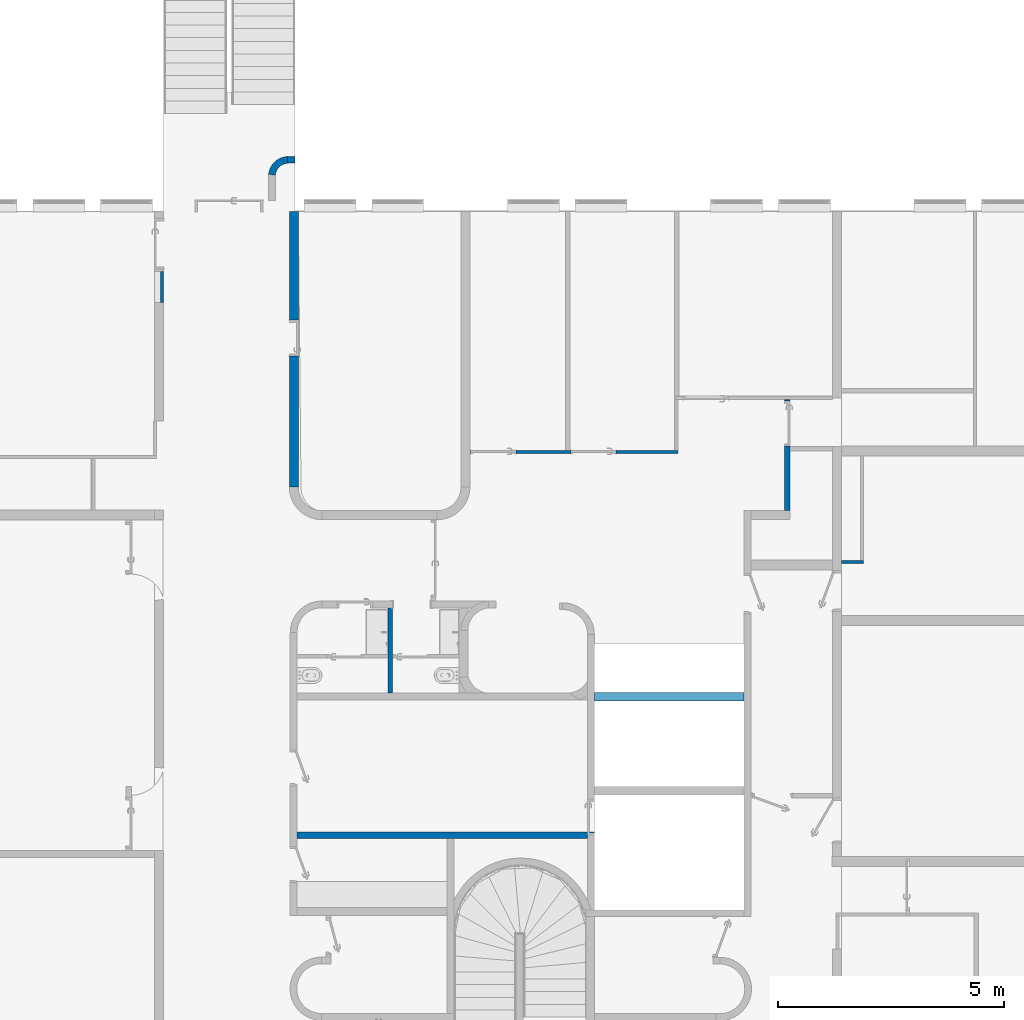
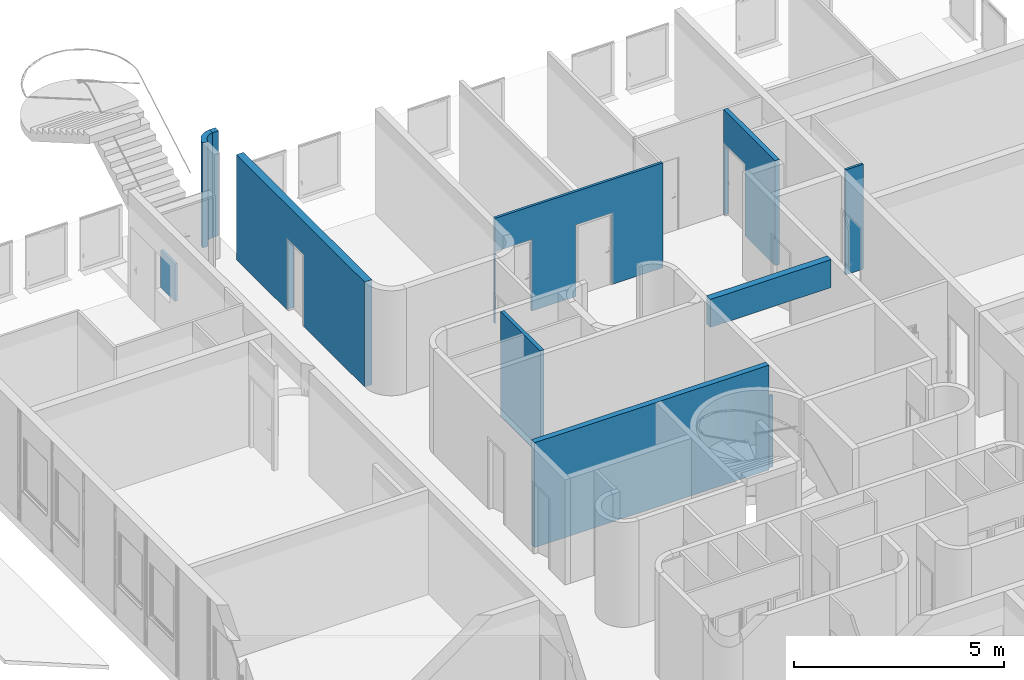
# One storey, part 2 of 4: 10 walls, 4 openings.
"""IFC2X3 building model written with IfcOpenShell, lengths in metres."""

import ifcopenshell
import ifcopenshell.guid

model = None  # the IFC model being written
_history = None  # IfcOwnerHistory: only IFC2X3 demands one
_inside = {}  # id of a spatial element -> (the spatial element, [elements in it])
_under = {}  # id of a project, library or spatial element -> (it, [spatial elements below it])
_declared = {}  # id of a project -> (the project, [libraries it declares])
_typed = {}  # id of a type object -> (the type object, [elements of that type])
_made_of = {}  # id of a material, layer set ... -> (it, [elements and type objects made of it])


def new_model(schema):
    """Start an empty IFC model of exactly this schema.

    Asked for "IFC4X3", IfcOpenShell would pick the latest addendum, in which some entities
    have other attributes; the version numbers below select the first issue.
    IFC2X3 requires an IfcOwnerHistory on every rooted entity: one is made here for all.
    """
    global model, _history
    if schema == "IFC4X3":
        model = ifcopenshell.file(schema_version=(4, 3, 0, 0))
    else:
        model = ifcopenshell.file(schema=schema)
    _inside.clear()
    _under.clear()
    _declared.clear()
    _typed.clear()
    _made_of.clear()
    _history = None
    if model.schema == "IFC2X3":
        org = make("IfcOrganization", Name="unknown")
        user = make(
            "IfcPersonAndOrganization",
            ThePerson=make("IfcPerson", FamilyName="unknown"),
            TheOrganization=org,
        )
        app = make(
            "IfcApplication",
            ApplicationDeveloper=org,
            Version="unknown",
            ApplicationFullName="unknown",
            ApplicationIdentifier="unknown",
        )
        _history = make(
            "IfcOwnerHistory",
            OwningUser=user,
            OwningApplication=app,
            ChangeAction="ADDED",
            CreationDate=0,
        )
    return model


def make(cls, **values):
    """One entity of the class cls with the attributes given. An attribute that is None is left unset."""
    return model.create_entity(
        cls, **{name: value for name, value in values.items() if value is not None}
    )


def entity(cls, *values):
    """Any entity or typed value of the class cls, its attributes in the order of the schema. None: left unset."""
    e = model.create_entity(cls)
    for i, value in enumerate(values):
        if value is not None:
            e[i] = value
    return e


def rooted(cls, **values):
    """An entity with a GlobalId (a new one), such as an element, a storey or a relation."""
    return make(cls, GlobalId=ifcopenshell.guid.new(), OwnerHistory=_history, **values)


def si_unit(unit_type, name, prefix=None):
    """IfcSIUnit, for example si_unit("LENGTHUNIT", "METRE", prefix="MILLI")."""
    return make("IfcSIUnit", UnitType=unit_type, Prefix=prefix, Name=name)


def converted_unit(unit_type, name, factor, base, dimensions=None, offset=None):
    """IfcConversionBasedUnit, such as the inch: factor (a typed value) times the base unit."""
    return make(
        "IfcConversionBasedUnit"
        if offset is None
        else "IfcConversionBasedUnitWithOffset",
        ConversionOffset=offset,
        Dimensions=None
        if dimensions is None
        else entity("IfcDimensionalExponents", *dimensions),
        UnitType=unit_type,
        Name=name,
        ConversionFactor=make(
            "IfcMeasureWithUnit", ValueComponent=factor, UnitComponent=base
        ),
    )


def derived_unit(unit_type, elements):
    """IfcDerivedUnit: a product of units, each with its exponent."""
    return make(
        "IfcDerivedUnit",
        Elements=[
            make("IfcDerivedUnitElement", Unit=unit, Exponent=power)
            for unit, power in elements
        ],
        UnitType=unit_type,
    )


def assignment(units):
    """IfcUnitAssignment: the units of a project."""
    return None if units is None else make("IfcUnitAssignment", Units=units)


def point(xyz):
    """IfcCartesianPoint."""
    return None if xyz is None else make("IfcCartesianPoint", Coordinates=xyz)


def direction(xyz):
    """IfcDirection."""
    return None if xyz is None else make("IfcDirection", DirectionRatios=xyz)


def frame(location, z_axis=None, x_axis=None):
    """IfcAxis2Placement3D, a coordinate frame: its origin and axes. An axis left out is left unset."""
    return make(
        "IfcAxis2Placement3D",
        Location=point(location),
        Axis=direction(z_axis),
        RefDirection=direction(x_axis),
    )


def frame_2d(location, x_axis=None):
    """IfcAxis2Placement2D, a coordinate frame in the plane: its origin and x axis."""
    return make(
        "IfcAxis2Placement2D", Location=point(location), RefDirection=direction(x_axis)
    )


def origin():
    """The frame at (0, 0, 0) with its axes left unset."""
    return frame((0.0, 0.0, 0.0))


def place(relative_to, where):
    """IfcLocalPlacement: puts the frame where relative to a parent placement (None: the world)."""
    return make(
        "IfcLocalPlacement", PlacementRelTo=relative_to, RelativePlacement=where
    )


def context(
    kind, dimensions, precision=None, world=None, true_north=None, identifier=None
):
    """IfcGeometricRepresentationContext, for example the 3D "Model" context."""
    return make(
        "IfcGeometricRepresentationContext",
        ContextIdentifier=identifier,
        ContextType=kind,
        CoordinateSpaceDimension=dimensions,
        Precision=precision,
        WorldCoordinateSystem=world,
        TrueNorth=true_north,
    )


def subcontext(parent, identifier, kind, view, scale=None):
    """IfcGeometricRepresentationSubContext, for example "Body" below "Model"."""
    return make(
        "IfcGeometricRepresentationSubContext",
        ContextIdentifier=identifier,
        ContextType=kind,
        ParentContext=parent,
        TargetScale=scale,
        TargetView=view,
    )


def project(units=None, contexts=None):
    """IfcProject with its units and contexts."""
    return rooted(
        "IfcProject",
        Name="project",
        RepresentationContexts=contexts,
        UnitsInContext=assignment(units),
    )


def spatial(cls, under=None, at=None, **own):
    """A site, building, storey or space (cls), placed at a placement, below another one or the project."""
    s = rooted(cls, ObjectPlacement=at, **own)
    if under is not None:
        _under.setdefault(under.id(), (under, []))[1].append(s)
    return s


def polyline(points):
    """IfcPolyline through the points."""
    return make("IfcPolyline", Points=[point(p) for p in points])


def circle_curve(where, radius):
    """IfcCircle in the frame where."""
    return make("IfcCircle", Position=where, Radius=radius)


def parameter(value):
    """IfcParameterValue: where a trimmed curve begins or ends, as a parameter of its basis curve."""
    return model.create_entity("IfcParameterValue", value)


def trimmed(basis, trim1, trim2, sense, master):
    """IfcTrimmedCurve: the piece of a basis curve between two trims."""
    return make(
        "IfcTrimmedCurve",
        BasisCurve=basis,
        Trim1=trim1,
        Trim2=trim2,
        SenseAgreement=sense,
        MasterRepresentation=master,
    )


def segment(curve, same_sense, transition):
    """IfcCompositeCurveSegment."""
    return make(
        "IfcCompositeCurveSegment",
        Transition=transition,
        SameSense=same_sense,
        ParentCurve=curve,
    )


def composite_curve(segments, self_intersect=None):
    """IfcCompositeCurve: segments joined end to end."""
    return make("IfcCompositeCurve", Segments=segments, SelfIntersect=self_intersect)


def profile(cls, at=None, kind="AREA", **sizes):
    """A parametric profile (cls). Its sizes go by their IFC names, for example OverallWidth=200.0."""
    return make(cls, ProfileType=kind, Position=at, **sizes)


def rectangle(**sizes):
    """IfcRectangleProfileDef."""
    return profile("IfcRectangleProfileDef", **sizes)


def outline(outer, holes=None, kind="AREA"):
    """IfcArbitraryClosedProfileDef: a profile drawn as a closed curve; with holes, ...WithVoids."""
    if holes is None:
        return make("IfcArbitraryClosedProfileDef", ProfileType=kind, OuterCurve=outer)
    return make(
        "IfcArbitraryProfileDefWithVoids",
        ProfileType=kind,
        OuterCurve=outer,
        InnerCurves=holes,
    )


def extrude(swept, where, along, depth):
    """IfcExtrudedAreaSolid: the profile swept, set in the frame where, extruded along a direction by depth."""
    return make(
        "IfcExtrudedAreaSolid",
        SweptArea=swept,
        Position=where,
        ExtrudedDirection=direction(along),
        Depth=depth,
    )


def clip(a, b, op="DIFFERENCE"):
    """IfcBooleanClippingResult: the solid a cut by the half space b."""
    return make(
        "IfcBooleanClippingResult", Operator=op, FirstOperand=a, SecondOperand=b
    )


def halfspace(plane, agree):
    """IfcHalfSpaceSolid: all space on one side of the plane z = 0 of the frame plane."""
    return make(
        "IfcHalfSpaceSolid",
        BaseSurface=make("IfcPlane", Position=plane),
        AgreementFlag=agree,
    )


def bounded_halfspace(plane, agree, where, boundary):
    """IfcPolygonalBoundedHalfSpace: a half space limited to a polygon's prism."""
    return make(
        "IfcPolygonalBoundedHalfSpace",
        BaseSurface=make("IfcPlane", Position=plane),
        AgreementFlag=agree,
        Position=where,
        PolygonalBoundary=boundary,
    )


def faces_of(points, faces, orient=None, outer=None):
    """IfcFace entities. A face is a list of loops; a loop is a list of indices into points, from 0.

    orient and outer hold one flag for each loop. By default every Orientation is true, the
    first loop of a face is its IfcFaceOuterBound and the others are IfcFaceBound.
    """
    made = []
    for i, loops in enumerate(faces):
        bounds = []
        for j, loop in enumerate(loops):
            is_outer = j == 0 if outer is None else outer[i][j]
            bounds.append(
                make(
                    "IfcFaceOuterBound" if is_outer else "IfcFaceBound",
                    Bound=make("IfcPolyLoop", Polygon=[points[k] for k in loop]),
                    Orientation=True if orient is None else orient[i][j],
                )
            )
        made.append(make("IfcFace", Bounds=bounds))
    return made


def faceted_brep(points, faces, orient=None, outer=None, voids=None):
    """IfcFacetedBrep: a solid bounded by flat faces; with voids (closed shells), ...WithVoids."""
    shared = [point(p) for p in points]
    hull = make("IfcClosedShell", CfsFaces=faces_of(shared, faces, orient, outer))
    if voids is None:
        return make("IfcFacetedBrep", Outer=hull)
    return make(
        "IfcFacetedBrepWithVoids",
        Outer=hull,
        Voids=[
            make(cls, CfsFaces=faces_of(shared, fs, o, b)) for cls, fs, o, b in voids
        ],
    )


def shape(context_of_items, identifier, shape_type, items):
    """IfcShapeRepresentation: the items that make up one representation, for example the "Body"."""
    return make(
        "IfcShapeRepresentation",
        ContextOfItems=context_of_items,
        RepresentationIdentifier=identifier,
        RepresentationType=shape_type,
        Items=items,
    )


def material(Name=None, Category=None):
    """IfcMaterial."""
    return make("IfcMaterial", Name=Name, Category=Category)


def layer(
    of_material, thickness, ventilated=None, Name=None, Category=None, Priority=None
):
    """IfcMaterialLayer: one layer of a wall or slab, of a material (None: an air gap)."""
    return make(
        "IfcMaterialLayer",
        Material=of_material,
        LayerThickness=thickness,
        IsVentilated=ventilated,
        Name=Name,
        Category=Category,
        Priority=Priority,
    )


def layer_set(layers, Name=None):
    """IfcMaterialLayerSet."""
    return make("IfcMaterialLayerSet", MaterialLayers=layers, LayerSetName=Name)


def layer_usage(for_layer_set, set_direction, sense, offset, extent=None):
    """IfcMaterialLayerSetUsage: how a layer set lies in its element."""
    return make(
        "IfcMaterialLayerSetUsage",
        ForLayerSet=for_layer_set,
        LayerSetDirection=set_direction,
        DirectionSense=sense,
        OffsetFromReferenceLine=offset,
        ReferenceExtent=extent,
    )


def made_of(thing, what):
    """Note that an element or type object is made of a material, layer set ...; save() writes the relation."""
    if what is not None:
        _made_of.setdefault(what.id(), (what, []))[1].append(thing)
    return thing


def type_object(cls, material=None, **own):
    """A type object (cls), such as IfcWallType, which elements share."""
    return made_of(rooted(cls, **own), material)


def element(
    cls,
    number,
    at=None,
    inside=None,
    cuts=None,
    type_object=None,
    material=None,
    context=None,
    identifier="Body",
    shape_type=None,
    held_by="IfcProductDefinitionShape",
    body=None,
    shapes=None,
    **own,
):
    """One element of the class cls, such as IfcWall. Its Tag is "e" and its number.

    at: its placement. inside: the storey or other place that contains it. cuts: it is an
    opening in that element (IfcRelVoidsElement). A single representation is given by context,
    identifier, shape_type and body (its items); several are given by shapes. held_by: the class
    of the entity that holds the representations. save() writes the other relations.
    """
    e = rooted(cls, Tag="e%d" % number, ObjectPlacement=at, **own)
    if body is not None:
        shapes = [shape(context, identifier, shape_type, body)]
    if shapes is not None:
        e.Representation = make(held_by, Representations=shapes)
    if inside is not None:
        _inside.setdefault(inside.id(), (inside, []))[1].append(e)
    if cuts is not None:
        rooted(
            "IfcRelVoidsElement", RelatingBuildingElement=cuts, RelatedOpeningElement=e
        )
    if type_object is not None:
        _typed.setdefault(type_object.id(), (type_object, []))[1].append(e)
    return made_of(e, material)


def aggregate(whole, parts):
    """IfcRelAggregates: a whole, such as a stair, and the parts it consists of."""
    return rooted("IfcRelAggregates", RelatingObject=whole, RelatedObjects=parts)


def save(model, path):
    """Write the relations noted so far, then the file.

    IfcRelAggregates (storeys below a building ...), IfcRelContainedInSpatialStructure (elements
    in a storey), IfcRelDefinesByType, IfcRelAssociatesMaterial and IfcRelDeclares: one each for
    every whole, place, type object, material and project.
    """
    for whole, parts in _under.values():
        aggregate(whole, parts)
    for where, things in _inside.values():
        rooted(
            "IfcRelContainedInSpatialStructure",
            RelatedElements=things,
            RelatingStructure=where,
        )
    for kind, things in _typed.values():
        rooted("IfcRelDefinesByType", RelatedObjects=things, RelatingType=kind)
    for what, things in _made_of.values():
        rooted("IfcRelAssociatesMaterial", RelatedObjects=things, RelatingMaterial=what)
    for by, libraries in _declared.values():
        rooted("IfcRelDeclares", RelatingContext=by, RelatedDefinitions=libraries)
    model.write(path)


model = new_model("IFC2X3")

# Units and contexts
model_context = context("Model", 3, precision=1e-05, world=origin(), true_north=direction((6.12303176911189e-17, 1.0)))
body_context = subcontext(model_context, "Body", "Model", "MODEL_VIEW")
ifc_project = project(units=[si_unit("LENGTHUNIT", "METRE"), si_unit("AREAUNIT", "SQUARE_METRE"), si_unit("VOLUMEUNIT", "CUBIC_METRE"), converted_unit("PLANEANGLEUNIT", "DEGREE", entity("IfcRatioMeasure", 0.0174532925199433), si_unit("PLANEANGLEUNIT", "RADIAN"), dimensions=[0, 0, 0, 0, 0, 0, 0]), si_unit("MASSUNIT", "GRAM", prefix="KILO"), derived_unit("MASSDENSITYUNIT", [(si_unit("MASSUNIT", "GRAM", prefix="KILO"), 1), (si_unit("LENGTHUNIT", "METRE"), -3)]), derived_unit("MOMENTOFINERTIAUNIT", [(si_unit("LENGTHUNIT", "METRE"), 4)]), si_unit("TIMEUNIT", "SECOND"), si_unit("FREQUENCYUNIT", "HERTZ"), si_unit("THERMODYNAMICTEMPERATUREUNIT", "DEGREE_CELSIUS"), derived_unit("THERMALTRANSMITTANCEUNIT", [(si_unit("MASSUNIT", "GRAM", prefix="KILO"), 1), (si_unit("THERMODYNAMICTEMPERATUREUNIT", "KELVIN"), -1), (si_unit("TIMEUNIT", "SECOND"), -3)]), derived_unit("VOLUMETRICFLOWRATEUNIT", [(si_unit("LENGTHUNIT", "METRE"), 3), (si_unit("TIMEUNIT", "SECOND"), -1)]), si_unit("ELECTRICCURRENTUNIT", "AMPERE"), si_unit("ELECTRICVOLTAGEUNIT", "VOLT"), si_unit("POWERUNIT", "WATT"), si_unit("FORCEUNIT", "NEWTON", prefix="KILO"), si_unit("ILLUMINANCEUNIT", "LUX"), si_unit("LUMINOUSFLUXUNIT", "LUMEN"), si_unit("LUMINOUSINTENSITYUNIT", "CANDELA"), derived_unit("USERDEFINED", [(si_unit("MASSUNIT", "GRAM", prefix="KILO"), -1), (si_unit("LENGTHUNIT", "METRE"), -2), (si_unit("TIMEUNIT", "SECOND"), 3), (si_unit("LUMINOUSFLUXUNIT", "LUMEN"), 1)]), derived_unit("LINEARVELOCITYUNIT", [(si_unit("LENGTHUNIT", "METRE"), 1), (si_unit("TIMEUNIT", "SECOND"), -1)]), si_unit("PRESSUREUNIT", "PASCAL"), derived_unit("USERDEFINED", [(si_unit("LENGTHUNIT", "METRE"), -2), (si_unit("MASSUNIT", "GRAM", prefix="KILO"), 1), (si_unit("TIMEUNIT", "SECOND"), -2)]), derived_unit("LINEARFORCEUNIT", [(si_unit("MASSUNIT", "GRAM", prefix="KILO"), 1), (si_unit("LENGTHUNIT", "METRE"), 1), (si_unit("TIMEUNIT", "SECOND"), -2), (si_unit("LENGTHUNIT", "METRE"), -1)]), derived_unit("PLANARFORCEUNIT", [(si_unit("MASSUNIT", "GRAM", prefix="KILO"), 1), (si_unit("LENGTHUNIT", "METRE"), 1), (si_unit("TIMEUNIT", "SECOND"), -2), (si_unit("LENGTHUNIT", "METRE"), -2)])], contexts=[model_context])

# Site, building, storey
site_placement = place(None, origin())
site = spatial("IfcSite", under=ifc_project, at=site_placement, Name="Default", CompositionType="ELEMENT")
building_placement = place(site_placement, origin())
building = spatial("IfcBuilding", under=site, at=building_placement, CompositionType="ELEMENT")
storey_placement = place(building_placement, frame((0.0, 0.0, 4.12187276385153)))
storey = spatial("IfcBuildingStorey", under=building, at=storey_placement, Name="Niveau 1", CompositionType="ELEMENT", Elevation=4.12187276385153)

# Wall, openings
ifc_material_1 = material(Name="Verre")
ifc_layer_1 = layer(ifc_material_1, 0.07)
ifc_layer_set_1 = layer_set([ifc_layer_1], Name="Mur de base:Mur en verre 70")
ifc_layer_usage_1 = layer_usage(ifc_layer_set_1, "AXIS2", "NEGATIVE", 0.035)
wall_type_1 = type_object("IfcWallType", Name="Mur de base:Mur en verre 70", PredefinedType="STANDARD", material=ifc_layer_set_1)
wall_1_placement = place(storey_placement, frame((-11.966853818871, 5.24817702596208, 0.0)))
wall_1 = element("IfcWallStandardCase", 1, at=wall_1_placement, inside=storey, type_object=wall_type_1, material=ifc_layer_usage_1, Name="Mur de base:Mur en verre 70", ObjectType="Mur de base:Mur en verre 70", context=body_context, shape_type="Clipping", body=[
    clip(extrude(rectangle(XDim=4.60827409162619, YDim=0.0699999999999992, at=frame_2d((2.30413704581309, 0.0), x_axis=(-1.0, 0.0))), origin(), (0.0, 0.0, 1.0), 3.04543551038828), bounded_halfspace(frame((0.0, -0.0350000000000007, 3.04543551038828), z_axis=(0.0, 0.0, -1.0), x_axis=(0.0, 1.0, 0.0)), True, frame((0.0, -0.0350000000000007, 3.04543551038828)), polyline([(0.0, 0.0), (4.60827409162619, 0.0), (4.60827409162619, 0.0700000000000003), (4.53827409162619, 0.0700000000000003), (0.0, 0.0700000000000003), (0.0, 0.0)]))),
])
opening_1_placement = place(wall_1_placement, frame((0.0149999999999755, -0.035, 0.0)))
element("IfcOpeningElement", 2, at=opening_1_placement, cuts=wall_1, Name="@_Int. Simple:@_PP (0.93m x 2.04m):1", ObjectType="Opening", context=body_context, shape_type="SweptSolid", body=[
    extrude(rectangle(XDim=2.075, YDim=1.0, at=frame_2d((1.0375, 0.5), x_axis=(1.0, 0.0))), frame((0.0, 0.0, 0.0), z_axis=(0.0, 1.0, 0.0), x_axis=(0.0, 0.0, 1.0)), (0.0, 0.0, 1.0), 0.07),
])
opening_2_placement = place(wall_1_placement, frame((2.23286464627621, -0.035, 0.0)))
element("IfcOpeningElement", 3, at=opening_2_placement, cuts=wall_1, Name="@_Int. Simple:@_PP (0.93m x 2.04m):1", ObjectType="Opening", context=body_context, shape_type="SweptSolid", body=[
    extrude(rectangle(XDim=2.075, YDim=0.999999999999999, at=frame_2d((1.0375, 0.5), x_axis=(1.0, 0.0))), frame((0.0, 0.0, 0.0), z_axis=(0.0, 1.0, 0.0), x_axis=(0.0, 0.0, 1.0)), (0.0, 0.0, 1.0), 0.07),
])

# Wall
ifc_layer_usage_2 = layer_usage(ifc_layer_set_1, "AXIS2", "NEGATIVE", 0.035)
wall_2_placement = place(storey_placement, frame((-18.7789891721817, 8.56088485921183, 1.0), z_axis=(0.0, 0.0, 1.0), x_axis=(0.0, 1.0, 0.0)))
element("IfcWallStandardCase", 4, at=wall_2_placement, inside=storey, type_object=wall_type_1, material=ifc_layer_usage_2, Name="Mur de base:Mur en verre 70", ObjectType="Mur de base:Mur en verre 70", context=body_context, shape_type="SweptSolid", body=[
    extrude(rectangle(XDim=0.68, YDim=0.0700000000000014, at=frame_2d((0.34, -3.29597460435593e-16), x_axis=(-1.0, 0.0))), origin(), (0.0, 0.0, 1.0), 1.085),
])

# Wall, opening
ifc_material_2 = material(Name="Mur par défaut")
ifc_layer_2 = layer(ifc_material_2, 0.2)
ifc_layer_set_2 = layer_set([ifc_layer_2], Name="Mur de base:@_Générique - Int. 200 mm")
ifc_layer_usage_3 = layer_usage(ifc_layer_set_2, "AXIS2", "NEGATIVE", 0.1)
wall_type_2 = type_object("IfcWallType", Name="Mur de base:@_Générique - Int. 200 mm", PredefinedType="STANDARD", material=ifc_layer_set_2)
wall_3_placement = place(storey_placement, frame((-15.8652391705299, 10.5708848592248, 0.0), z_axis=(0.0, 0.0, 1.0), x_axis=(0.0, -1.0, 0.0)))
wall_3 = element("IfcWallStandardCase", 5, at=wall_3_placement, inside=storey, type_object=wall_type_2, material=ifc_layer_usage_3, Name="Mur de base:@_Générique - Int. 200 mm", ObjectType="Mur de base:@_Générique - Int. 200 mm", context=body_context, shape_type="Clipping", body=[
    clip(extrude(rectangle(XDim=6.09502030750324, YDim=0.200000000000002, at=frame_2d((3.04751015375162, 6.93889390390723e-17), x_axis=(-1.0, 0.0))), origin(), (0.0, 0.0, 1.0), 3.04543551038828), bounded_halfspace(frame((0.0, -0.0999999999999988, 3.04543551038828), z_axis=(0.0, 0.0, -1.0), x_axis=(-1.0, 0.0, 0.0)), True, frame((0.0, -0.0999999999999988, 3.04543551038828)), polyline([(0.0, 0.0), (6.09502030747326, 0.0), (6.09502030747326, 0.129418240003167), (6.09502030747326, 0.2), (0.0, 0.2), (0.0, 0.129418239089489), (0.0, 0.0)]))),
])
opening_3_placement = place(wall_3_placement, frame((2.39999999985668, -0.0999999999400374, 0.0)))
element("IfcOpeningElement", 6, at=opening_3_placement, cuts=wall_3, Name="@_Int. Simple:@_PP (0.73m x 2.04m):1", ObjectType="Opening", context=body_context, shape_type="SweptSolid", body=[
    extrude(rectangle(XDim=2.075, YDim=0.799999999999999, at=frame_2d((1.0375, 0.4), x_axis=(1.0, 0.0))), frame((0.0, 0.0, 0.0), z_axis=(0.0, 1.0, 0.0), x_axis=(0.0, 0.0, 1.0)), (0.0, 0.0, 1.0), 0.2),
])

# Walls
ifc_layer_3 = layer(ifc_material_2, 0.1)
ifc_layer_set_3 = layer_set([ifc_layer_3], Name="Mur de base:@_Générique - Int. 100 mm")
ifc_layer_usage_4 = layer_usage(ifc_layer_set_3, "AXIS2", "NEGATIVE", 0.05)
wall_type_3 = type_object("IfcWallType", Name="Mur de base:@_Générique - Int. 100 mm", PredefinedType="STANDARD", material=ifc_layer_set_3)
wall_4_placement = place(storey_placement, frame((-13.7285797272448, 1.80094568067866, 0.0), z_axis=(0.0, 0.0, 1.0), x_axis=(0.0, -1.0, 0.0)))
element("IfcWallStandardCase", 7, at=wall_4_placement, inside=storey, type_object=wall_type_3, material=ifc_layer_usage_4, Name="Mur de base:@_Générique - Int. 100 mm", ObjectType="Mur de base:@_Générique - Int. 100 mm", context=body_context, shape_type="Clipping", body=[
    clip(extrude(rectangle(XDim=1.88506082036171, YDim=0.0999999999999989, at=frame_2d((0.942530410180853, -2.32452945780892e-16), x_axis=(-1.0, 0.0))), origin(), (0.0, 0.0, 1.0), 3.04543551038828), bounded_halfspace(frame((0.0, -0.0499999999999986, 3.04543551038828), z_axis=(0.0, 0.0, -1.0), x_axis=(-1.0, 0.0, 0.0)), True, frame((0.0, -0.0499999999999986, 3.04543551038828)), polyline([(0.0, 0.0), (1.03600338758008, 0.0), (1.10600338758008, 0.0), (1.88506082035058, 0.0), (1.88506082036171, 0.0999999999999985), (1.10600338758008, 0.0999999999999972), (1.03600338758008, 0.0999999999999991), (0.0, 0.0999999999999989), (0.0, 0.0)]))),
])
ifc_layer_4 = layer(ifc_material_2, 0.15)
ifc_layer_set_4 = layer_set([ifc_layer_4], Name="Mur de base:@_Générique - Int. 150 mm")
wall_type_4 = type_object("IfcWallType", Name="Mur de base:@_Générique - Int. 150 mm", PredefinedType="STANDARD", material=ifc_layer_set_4)
wall_5_placement = place(storey_placement, frame((-15.7939891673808, -3.23411513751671, 0.0)))
element("IfcWall", 8, at=wall_5_placement, inside=storey, type_object=wall_type_4, Name="Mur de base:@_Générique - Int. 150 mm", ObjectType="Mur de base:@_Générique - Int. 150 mm", context=body_context, shape_type="Brep", body=[
    faceted_brep([(0.0, -0.0750000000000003, 3.04543551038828), (0.0, -0.0750000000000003, 0.0), (3.32124999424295, -0.0750000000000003, 0.0), (3.47124999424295, -0.0750000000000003, 0.0), (6.42999999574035, -0.0750000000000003, 0.0), (6.42999999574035, -0.0750000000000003, 3.04543551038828), (3.47124999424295, -0.0750000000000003, 3.04543551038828), (3.32124999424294, -0.0750000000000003, 3.04543551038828), (6.57999999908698, 0.0749999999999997, 0.0), (0.0, 0.0749999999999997, 0.0), (0.0, 0.0749999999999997, 3.04543551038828), (6.42999999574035, 0.0749999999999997, 3.04543551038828), (6.42999999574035, 0.0749999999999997, 2.075), (6.57999999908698, 0.0749999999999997, 2.075), (6.57999999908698, 0.00124999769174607, 0.0), (6.42999999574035, 0.00124999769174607, 0.0), (6.57999999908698, 0.00124999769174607, 2.075), (6.42999999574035, 0.00124999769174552, 2.075), (6.57999999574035, 0.00124999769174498, 2.075)], [[[0, 1, 2, 3, 4, 5, 6, 7]], [[8, 9, 10, 11, 12, 13]], [[9, 8, 14, 15, 4, 3, 2, 1]], [[8, 13, 16, 14]], [[1, 0, 10, 9]], [[10, 0, 7, 6, 5, 11]], [[15, 17, 12, 11, 5, 4]], [[17, 15, 14, 18]], [[17, 16, 13, 12]]]),
])
ifc_layer_usage_5 = layer_usage(ifc_layer_set_4, "AXIS2", "NEGATIVE", 0.075)
wall_6_placement = place(storey_placement, frame((-15.8358209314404, 11.7158848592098, 0.0), z_axis=(0.0, 0.0, 1.0), x_axis=(-1.0, 0.0, 0.0)))
element("IfcWallStandardCase", 9, at=wall_6_placement, inside=storey, type_object=wall_type_4, material=ifc_layer_usage_5, Name="Mur de base:@_Générique - Int. 150 mm", ObjectType="Mur de base:@_Générique - Int. 150 mm", context=body_context, shape_type="Clipping", body=[
    clip(extrude(outline(polyline([(0.166234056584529, -0.0749999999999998), (0.16263490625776, 0.0750000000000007), (0.0, 0.0750000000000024), (0.0, -0.0750000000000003), (0.166234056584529, -0.0749999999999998)])), origin(), (0.0, 0.0, 1.0), 3.04543551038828), bounded_halfspace(frame((0.0, -0.0750000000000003, 3.04543551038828), z_axis=(0.0, 0.0, -1.0), x_axis=(0.0, -1.0, 0.0)), True, frame((0.0, -0.0750000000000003, 3.04543551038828)), polyline([(0.0, 0.0), (0.166234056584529, 0.0), (0.16263490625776, 0.150000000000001), (0.0, 0.150000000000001), (0.0, 0.0)]))),
])
ifc_layer_usage_6 = layer_usage(ifc_layer_set_4, "AXIS2", "NEGATIVE", 0.075)
wall_7_placement = place(storey_placement, frame((-15.9987929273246, 11.7159558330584, 0.0), z_axis=(0.0, 0.0, 1.0), x_axis=(0.0, 1.0, 0.0)))
element("IfcWallStandardCase", 10, at=wall_7_placement, inside=storey, type_object=wall_type_4, material=ifc_layer_usage_6, Name="Mur de base:@_Générique - Int. 150 mm", ObjectType="Mur de base:@_Générique - Int. 150 mm", context=body_context, shape_type="Clipping", body=[
    clip(extrude(outline(composite_curve([segment(trimmed(circle_curve(frame_2d((-0.368451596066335, -0.0160406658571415), x_axis=(1.0, 0.0)), 0.293800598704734), [parameter(3.06390663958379)], [parameter(83.3851779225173)], True, "PARAMETER"), False, "CONTINUOUS"), segment(polyline([(-0.0750709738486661, -0.000337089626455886), (0.0749290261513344, 0.00326206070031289)]), True, "CONTINUOUS"), segment(trimmed(circle_curve(frame_2d((-0.368451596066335, -0.0160406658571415), x_axis=(1.0, 0.0)), 0.443800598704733), [parameter(2.49281719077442)], [parameter(84.6189259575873)], True, "PARAMETER"), True, "CONTINUOUS"), segment(polyline([(-0.326832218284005, 0.425804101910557), (-0.334607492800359, 0.275804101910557)]), True, "CONTINUOUS")], self_intersect=False)), origin(), (0.0, 0.0, 1.0), 3.04543551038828), halfspace(frame((-0.334607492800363, 0.275804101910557, 3.04543551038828), z_axis=(0.0, 0.0, -1.0), x_axis=(1.0, 0.0, 0.0)), True)),
])

# Wall, opening
ifc_layer_5 = layer(ifc_material_2, 0.12)
ifc_layer_set_5 = layer_set([ifc_layer_5], Name="Mur de base:@_Générique - Int. 120 mm")
ifc_layer_usage_7 = layer_usage(ifc_layer_set_5, "AXIS2", "NEGATIVE", 0.06)
wall_type_5 = type_object("IfcWallType", Name="Mur de base:@_Générique - Int. 120 mm", PredefinedType="STANDARD", material=ifc_layer_set_5)
wall_8_placement = place(storey_placement, frame((-4.94261804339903, 6.40797855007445, 0.0), z_axis=(0.0, 0.0, 1.0), x_axis=(0.0, -1.0, 0.0)))
wall_8 = element("IfcWallStandardCase", 11, at=wall_8_placement, inside=storey, type_object=wall_type_5, material=ifc_layer_usage_7, Name="Mur de base:@_Générique - Int. 120 mm", ObjectType="Mur de base:@_Générique - Int. 120 mm", context=body_context, shape_type="Clipping", body=[
    clip(extrude(rectangle(XDim=2.45709368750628, YDim=0.120000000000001, at=frame_2d((1.22854684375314, -1.87350135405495e-16), x_axis=(-1.0, 0.0))), origin(), (0.0, 0.0, 1.0), 3.04543551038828), bounded_halfspace(frame((0.0, -0.0599999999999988, 3.04543551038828), z_axis=(0.0, 0.0, -1.0), x_axis=(-1.0, 0.0, 0.0)), True, frame((0.0, -0.0599999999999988, 3.04543551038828)), polyline([(0.0, 0.0), (2.45709368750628, 0.0), (2.45709368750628, 0.119999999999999), (1.13709369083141, 0.119999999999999), (1.03709369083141, 0.119999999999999), (0.0, 0.12), (0.0, 0.0)]))),
])
opening_4_placement = place(wall_8_placement, frame((0.0300000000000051, -0.0599999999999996, 0.0)))
element("IfcOpeningElement", 12, at=opening_4_placement, cuts=wall_8, Name="@_Int. Simple:@_PP (0.93m x 2.04m):1", ObjectType="Opening", context=body_context, shape_type="SweptSolid", body=[
    extrude(rectangle(XDim=2.075, YDim=1.0, at=frame_2d((1.0375, 0.5), x_axis=(1.0, 0.0))), frame((0.0, 0.0, 0.0), z_axis=(0.0, 1.0, 0.0), x_axis=(0.0, 0.0, 1.0)), (0.0, 0.0, 1.0), 0.12),
])

# Walls
ifc_layer_6 = layer(ifc_material_2, 0.18)
ifc_layer_set_6 = layer_set([ifc_layer_6], Name="Mur de base:@_Générique - Int. 180 mm")
ifc_layer_usage_8 = layer_usage(ifc_layer_set_6, "AXIS2", "NEGATIVE", 0.09)
wall_type_6 = type_object("IfcWallType", Name="Mur de base:@_Générique - Int. 180 mm", PredefinedType="STANDARD", material=ifc_layer_set_6)
wall_9_placement = place(storey_placement, frame((-5.89766970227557, -0.167787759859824, 2.23343551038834), z_axis=(0.0, 0.0, 1.0), x_axis=(-1.0, 0.0, 0.0)))
element("IfcWallStandardCase", 13, at=wall_9_placement, inside=storey, type_object=wall_type_6, material=ifc_layer_usage_8, Name="Mur de base:@_Générique - Int. 180 mm", ObjectType="Mur de base:@_Générique - Int. 180 mm", context=body_context, shape_type="Clipping", body=[
    clip(extrude(rectangle(XDim=3.31631946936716, YDim=0.18, at=frame_2d((1.65815973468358, -2.08166817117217e-17), x_axis=(-1.0, 0.0))), origin(), (0.0, 0.0, 1.0), 0.811999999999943), bounded_halfspace(frame((0.0, -0.09, 0.811999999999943), z_axis=(0.0, 0.0, -1.0), x_axis=(0.0, -1.0, 0.0)), True, frame((0.0, -0.09, 0.811999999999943)), polyline([(0.0, 0.0), (3.31631946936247, 0.0), (3.31631946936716, 0.18), (0.0, 0.18), (0.0, 0.0)]))),
])
ifc_layer_7 = layer(ifc_material_2, 0.07)
ifc_layer_set_7 = layer_set([ifc_layer_7], Name="Mur de base:@_Générique - Int. 70 mm")
ifc_layer_usage_9 = layer_usage(ifc_layer_set_7, "AXIS2", "NEGATIVE", 0.035)
wall_type_7 = type_object("IfcWallType", Name="Mur de base:@_Générique - Int. 70 mm", PredefinedType="STANDARD", material=ifc_layer_set_7)
wall_10_placement = place(storey_placement, frame((-3.25761804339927, 2.81464321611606, 0.0), z_axis=(0.0, 0.0, 1.0), x_axis=(-1.0, 0.0, 0.0)))
element("IfcWallStandardCase", 14, at=wall_10_placement, inside=storey, type_object=wall_type_7, material=ifc_layer_usage_9, Name="Mur de base:@_Générique - Int. 70 mm", ObjectType="Mur de base:@_Générique - Int. 70 mm", context=body_context, shape_type="Clipping", body=[
    clip(extrude(rectangle(XDim=0.486371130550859, YDim=0.0700000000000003, at=frame_2d((0.24318556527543, 6.93889390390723e-18), x_axis=(-1.0, 0.0))), origin(), (0.0, 0.0, 1.0), 3.04543551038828), bounded_halfspace(frame((0.0, -0.0349999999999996, 3.04543551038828), z_axis=(0.0, 0.0, -1.0), x_axis=(0.0, -1.0, 0.0)), True, frame((0.0, -0.0349999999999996, 3.04543551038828)), polyline([(0.0, 0.0), (0.0699999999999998, 0.0), (0.486371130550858, 0.0), (0.486371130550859, 0.0700000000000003), (0.0, 0.0699999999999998), (0.0, 0.0)]))),
])

save(model, "model.ifc")
